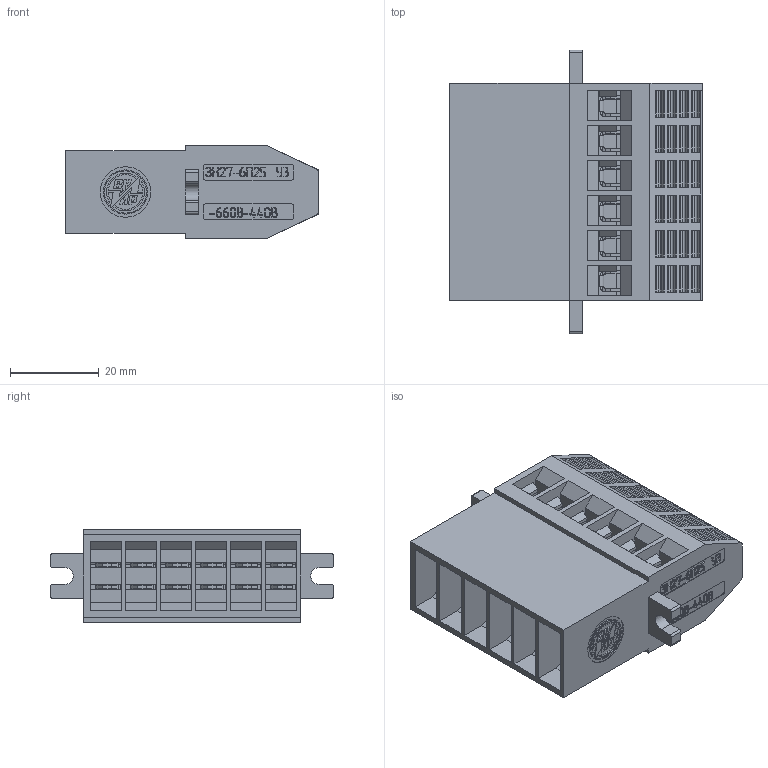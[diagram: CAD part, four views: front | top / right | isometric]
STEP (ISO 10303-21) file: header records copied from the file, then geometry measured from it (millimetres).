
FILE_DESCRIPTION(('STEP AP214'), '1');
FILE_NAME('栖闉罻 (6) 麧蠉錪', '2024-05-03T05:43:08', (''), (''), 'ASCON STEP Converter 1.6', 'ASCON Math Kernel', '');
FILE_SCHEMA(('AUTOMOTIVE_DESIGN { 1 0 10303 214 3 1 1}'));
Length unit declared in the file: millimetre
Bounding box: 57 x 64 x 21 mm (x, y, z)
Volume: 28410.7 mm3; surface area: 31356.4 mm2
Topology: 25 solids, 25 shells, 9721 faces, 27916 edges, 18496 vertices
Faces by surface type: plane 4882, cylinder 4773, bspline 48, torus 12, sphere 6
Full cylindrical faces by diameter (mm): 1 x12, 3 x12, 5.6 x6, 11.4 x6
Entity records: 400511 total; most frequent: CARTESIAN_POINT 58600, DIRECTION 56783, ORIENTED_EDGE 55724, EDGE_CURVE 27862, AXIS2_PLACEMENT_3D 19349, VERTEX_POINT 18496, LINE 18085, VECTOR 18085
